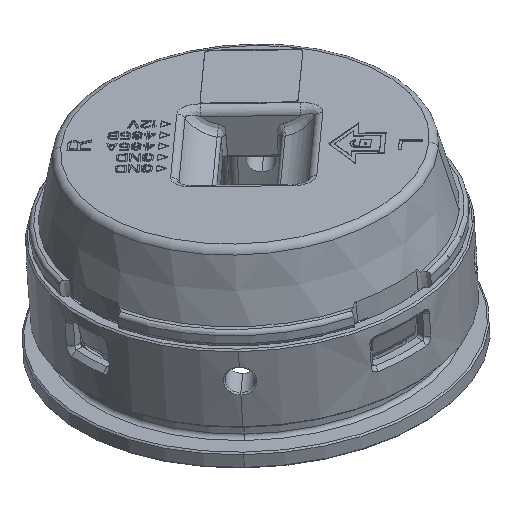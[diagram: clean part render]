
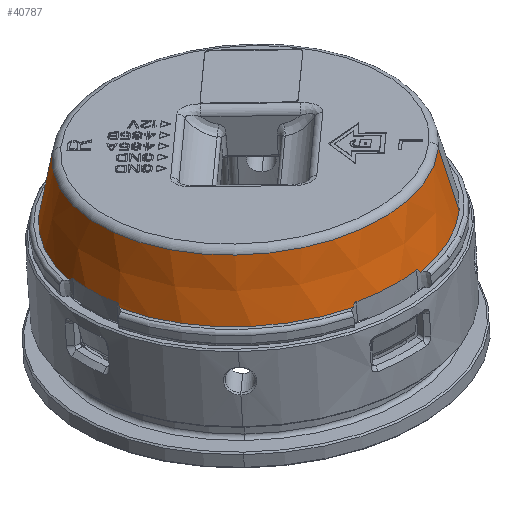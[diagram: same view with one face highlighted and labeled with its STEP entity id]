
A CAD part, isometric view. The second image highlights one B-rep face of the part: STEP entity #40787.
In plain terms, the highlighted conical face has half-angle 12.947 degrees and reference radius 21.589 mm.
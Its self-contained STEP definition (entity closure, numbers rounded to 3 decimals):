
#12270=CARTESIAN_POINT('',(-18.938,12.149,-2.));
#12271=CARTESIAN_POINT('',(-18.917,12.16,
-2.05));
#12272=CARTESIAN_POINT('',(-18.876,12.184,
-2.144));
#12273=CARTESIAN_POINT('',(-18.814,12.228,
-2.268));
#12274=CARTESIAN_POINT('',(-18.752,12.28,-2.37));
#12275=CARTESIAN_POINT('',(-18.684,12.35,
-2.449));
#12276=CARTESIAN_POINT('',(-18.64,12.407,
-2.471));
#12277=CARTESIAN_POINT('',(-18.619,12.439,
-2.471));
#12302=CARTESIAN_POINT('',(0.,0.,-2.));
#12303=DIRECTION('',(0.,0.,-1.));
#12304=DIRECTION('',(-0.821,-0.571,0.));
#12305=AXIS2_PLACEMENT_3D('',#12302,#12303,#12304);
#12312=CARTESIAN_POINT('',(0.,0.,-2.));
#12313=DIRECTION('',(0.,0.,-1.));
#12314=DIRECTION('',(-0.54,0.842,0.));
#12315=AXIS2_PLACEMENT_3D('',#12312,#12313,#12314);
#12332=CARTESIAN_POINT('',(0.,0.,-2.));
#12333=DIRECTION('',(0.,0.,-1.));
#12334=DIRECTION('',(0.,-1.,0.));
#12335=AXIS2_PLACEMENT_3D('',#12332,#12333,#12334);
#12363=CARTESIAN_POINT('',(-18.145,-13.12,
-2.471));
#12364=CARTESIAN_POINT('',(-18.168,-13.089,
-2.471));
#12365=CARTESIAN_POINT('',(-18.213,-13.034,
-2.45));
#12366=CARTESIAN_POINT('',(-18.284,-12.966,
-2.369));
#12367=CARTESIAN_POINT('',(-18.348,-12.917,
-2.268));
#12368=CARTESIAN_POINT('',(-18.412,-12.875,
-2.144));
#12369=CARTESIAN_POINT('',(-18.454,-12.853,
-2.05));
#12370=CARTESIAN_POINT('',(-18.475,-12.843,-2.));
#21887=CARTESIAN_POINT('',(0.,0.,-9.924));
#21888=DIRECTION('',(0.,0.,-1.));
#21889=DIRECTION('',(0.,-1.,0.));
#21890=AXIS2_PLACEMENT_3D('',#21887,#21888,#21889);
#21892=CARTESIAN_POINT('',(0.,0.,-2.471));
#21893=DIRECTION('',(0.,0.,1.));
#21894=DIRECTION('',(-0.556,0.832,0.));
#21895=AXIS2_PLACEMENT_3D('',#21892,#21893,#21894);
#21897=CARTESIAN_POINT('',(0.,0.,-2.471));
#21898=DIRECTION('',(0.,0.,1.));
#21899=DIRECTION('',(-0.81,-0.586,0.));
#21900=AXIS2_PLACEMENT_3D('',#21897,#21898,#21899);
#21907=DIRECTION('',(0.,0.224,-0.975));
#21908=VECTOR('',#21907,8.131);
#21909=CARTESIAN_POINT('',(0.,-22.5,-2.));
#21910=LINE('',#21909,#21908);
#21916=DIRECTION('',(0.,-0.224,-0.975));
#21917=VECTOR('',#21916,8.131);
#21918=CARTESIAN_POINT('',(0.,22.5,-2.));
#21919=LINE('',#21918,#21917);
#21977=CARTESIAN_POINT('',(-12.843,-18.475,-2.));
#21978=CARTESIAN_POINT('',(-12.853,-18.454,
-2.05));
#21979=CARTESIAN_POINT('',(-12.875,-18.412,
-2.144));
#21980=CARTESIAN_POINT('',(-12.916,-18.348,
-2.267));
#21981=CARTESIAN_POINT('',(-12.966,-18.284,
-2.37));
#21982=CARTESIAN_POINT('',(-13.034,-18.214,
-2.449));
#21983=CARTESIAN_POINT('',(-13.089,-18.168,
-2.471));
#21984=CARTESIAN_POINT('',(-13.12,-18.145,
-2.471));
#22008=CARTESIAN_POINT('',(-18.145,-13.12,
-2.471));
#22024=CARTESIAN_POINT('',(-13.12,-18.145,
-2.471));
#22310=CARTESIAN_POINT('',(-12.439,18.619,
-2.471));
#22311=CARTESIAN_POINT('',(-12.407,18.64,
-2.471));
#22312=CARTESIAN_POINT('',(-12.35,18.684,
-2.45));
#22313=CARTESIAN_POINT('',(-12.279,18.752,
-2.369));
#22314=CARTESIAN_POINT('',(-12.228,18.814,
-2.268));
#22315=CARTESIAN_POINT('',(-12.184,18.876,
-2.144));
#22316=CARTESIAN_POINT('',(-12.16,18.917,
-2.05));
#22317=CARTESIAN_POINT('',(-12.149,18.938,-2.));
#22330=CARTESIAN_POINT('',(-12.439,18.619,
-2.471));
#22346=CARTESIAN_POINT('',(-18.619,12.439,
-2.471));
#23179=VERTEX_POINT('',#22330);
#23181=VERTEX_POINT('',#22346);
#23183=VERTEX_POINT('',#22008);
#23185=VERTEX_POINT('',#22024);
#23188=VERTEX_POINT('',#22317);
#23189=VERTEX_POINT('',#12270);
#23190=VERTEX_POINT('',#12370);
#23191=VERTEX_POINT('',#21977);
#23192=CARTESIAN_POINT('',(0.,22.5,-2.));
#23193=VERTEX_POINT('',#23192);
#23194=CARTESIAN_POINT('',(0.,-22.5,-2.));
#23195=VERTEX_POINT('',#23194);
#25877=CARTESIAN_POINT('',(0.,20.678,-9.924));
#25878=CARTESIAN_POINT('',(0.,-20.678,-9.924));
#25879=VERTEX_POINT('',#25877);
#25880=VERTEX_POINT('',#25878);
#40762=CARTESIAN_POINT('',(0.,0.,-5.962));
#40763=DIRECTION('',(0.,0.,1.));
#40764=DIRECTION('',(0.,1.,0.));
#40765=AXIS2_PLACEMENT_3D('',#40762,#40763,#40764);
#40766=CONICAL_SURFACE('',#40765,21.589,12.947);
#40767=ORIENTED_EDGE('',*,*,#40756,.T.);
#40769=ORIENTED_EDGE('',*,*,#40768,.F.);
#40770=ORIENTED_EDGE('',*,*,#26009,.F.);
#40772=ORIENTED_EDGE('',*,*,#40771,.F.);
#40774=ORIENTED_EDGE('',*,*,#40773,.T.);
#40775=ORIENTED_EDGE('',*,*,#25974,.F.);
#40776=ORIENTED_EDGE('',*,*,#25994,.F.);
#40777=ORIENTED_EDGE('',*,*,#26061,.F.);
#40779=ORIENTED_EDGE('',*,*,#40778,.T.);
#40781=ORIENTED_EDGE('',*,*,#40780,.F.);
#40782=ORIENTED_EDGE('',*,*,#26029,.F.);
#40784=ORIENTED_EDGE('',*,*,#40783,.T.);
#40785=EDGE_LOOP('',(#40767,#40769,#40770,#40772,#40774,#40775,#40776,#40777,
#40779,#40781,#40782,#40784));
#40786=FACE_OUTER_BOUND('',#40785,.F.);
#40787=ADVANCED_FACE('',(#40786),#40766,.T.);
#12278=B_SPLINE_CURVE_WITH_KNOTS('',3,(#12270,#12271,#12272,#12273,#12274,
#12275,#12276,#12277),.UNSPECIFIED.,.F.,.F.,(4,1,1,1,1,4),(0.,0.2,0.4,
0.6,0.8,1.),.UNSPECIFIED.);
#12306=CIRCLE('',#12305,22.5);
#12316=CIRCLE('',#12315,22.5);
#12336=CIRCLE('',#12335,22.5);
#12371=B_SPLINE_CURVE_WITH_KNOTS('',3,(#12363,#12364,#12365,#12366,#12367,
#12368,#12369,#12370),.UNSPECIFIED.,.F.,.F.,(4,1,1,1,1,4),(0.,0.2,0.4,
0.6,0.8,1.),.UNSPECIFIED.);
#21891=CIRCLE('',#21890,20.678);
#21896=CIRCLE('',#21895,22.392);
#21901=CIRCLE('',#21900,22.392);
#21985=B_SPLINE_CURVE_WITH_KNOTS('',3,(#21977,#21978,#21979,#21980,#21981,
#21982,#21983,#21984),.UNSPECIFIED.,.F.,.F.,(4,1,1,1,1,4),(0.,0.2,0.4,
0.6,0.8,1.),.UNSPECIFIED.);
#22318=B_SPLINE_CURVE_WITH_KNOTS('',3,(#22310,#22311,#22312,#22313,#22314,
#22315,#22316,#22317),.UNSPECIFIED.,.F.,.F.,(4,1,1,1,1,4),(0.,0.2,0.4,
0.6,0.8,1.),.UNSPECIFIED.);
#25974=EDGE_CURVE('',#23189,#23181,#12278,.T.);
#25994=EDGE_CURVE('',#23190,#23189,#12306,.T.);
#26009=EDGE_CURVE('',#23188,#23193,#12316,.T.);
#26029=EDGE_CURVE('',#23195,#23191,#12336,.T.);
#26061=EDGE_CURVE('',#23183,#23190,#12371,.T.);
#40756=EDGE_CURVE('',#25880,#25879,#21891,.T.);
#40768=EDGE_CURVE('',#23193,#25879,#21919,.T.);
#40771=EDGE_CURVE('',#23179,#23188,#22318,.T.);
#40773=EDGE_CURVE('',#23179,#23181,#21896,.T.);
#40778=EDGE_CURVE('',#23183,#23185,#21901,.T.);
#40780=EDGE_CURVE('',#23191,#23185,#21985,.T.);
#40783=EDGE_CURVE('',#23195,#25880,#21910,.T.);
